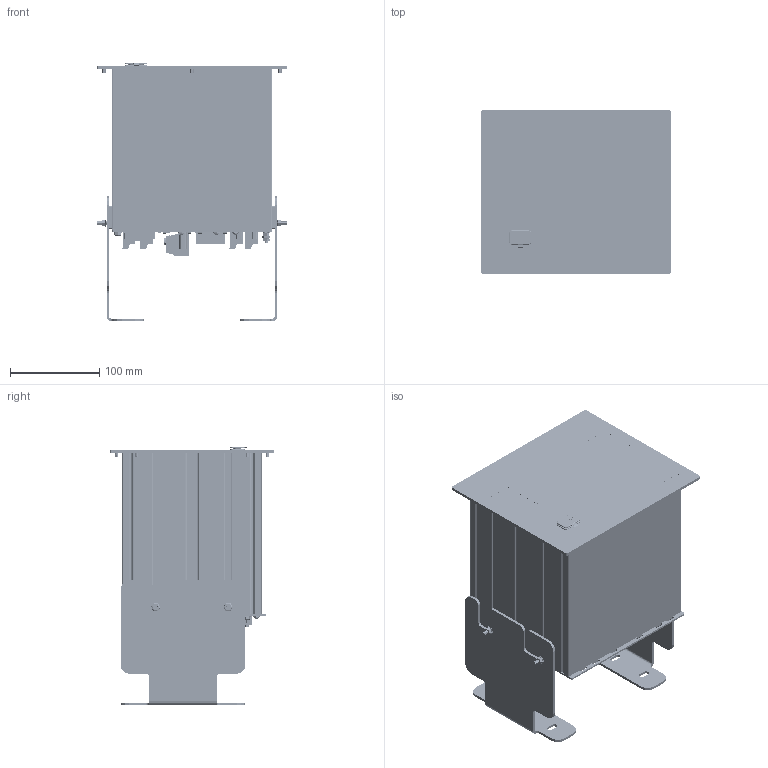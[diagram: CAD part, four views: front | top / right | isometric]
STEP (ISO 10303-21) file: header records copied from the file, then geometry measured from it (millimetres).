
FILE_DESCRIPTION (( 'STEP AP214' ), '1' );
FILE_NAME ('HPTWMBX.STEP', '2026-04-17T05:31:34', ( '' ), ( '' ), 'SwSTEP 2.0', 'SolidWorks 2023', '' );
FILE_SCHEMA (( 'AUTOMOTIVE_DESIGN' ));
Length unit declared in the file: millimetre
Products named in the file (1): HPTWMBX
Bounding box: 212.7 x 183 x 289.67 mm (x, y, z)
Topology: 0 solids, 123 shells, 20315 faces, 59174 edges, 40066 vertices
Faces by surface type: plane 13653, cylinder 4022, bspline 1466, cone 870, torus 230, sphere 74
Entity records: 956150 total; most frequent: CARTESIAN_POINT 208351, ORIENTED_EDGE 115872, DIRECTION 100438, EDGE_CURVE 59086, LINE 41910, VECTOR 41910, VERTEX_POINT 40064, AXIS2_PLACEMENT_3D 29264
